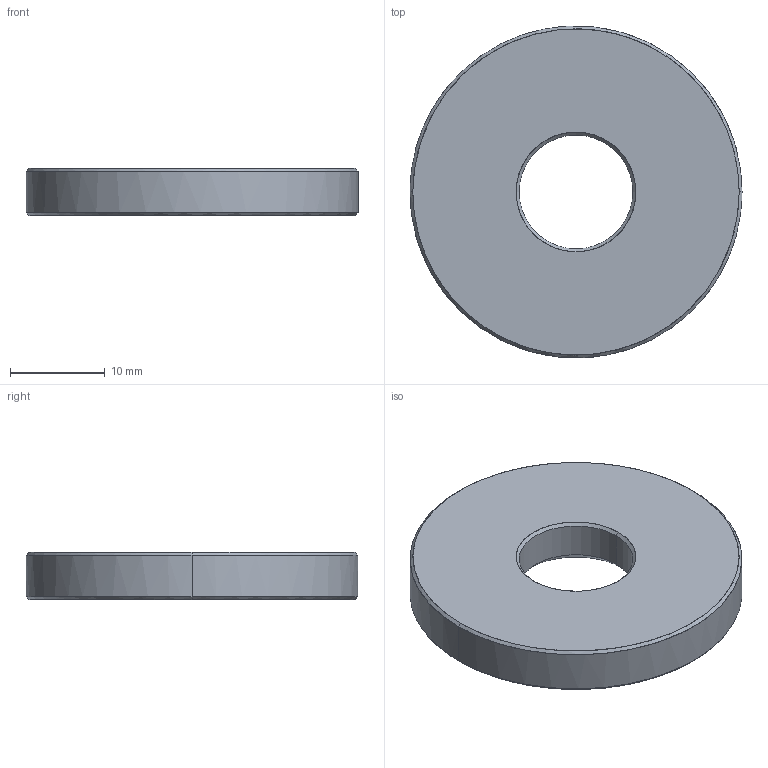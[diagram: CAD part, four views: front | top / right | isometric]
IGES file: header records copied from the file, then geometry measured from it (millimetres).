
Global section: file name: E:\UnigraphicsGraphicData\MISUMI_PRESS-PARTS\IGES\3d_r20-35_00110_r00.igs; native system: NX V5.0; preprocessor: UGS NX IGES V5.0; author: MISUMI; date: 20110105.162335; units: millimetre
Bounding box: 35 x 34.95 x 5 mm (x, y, z)
Surface area: 2369.6 mm2 (no closed solid volume)
Topology: 0 solids, 0 shells, 14 faces, 96 edges, 96 vertices
Faces by surface type: bspline 14
